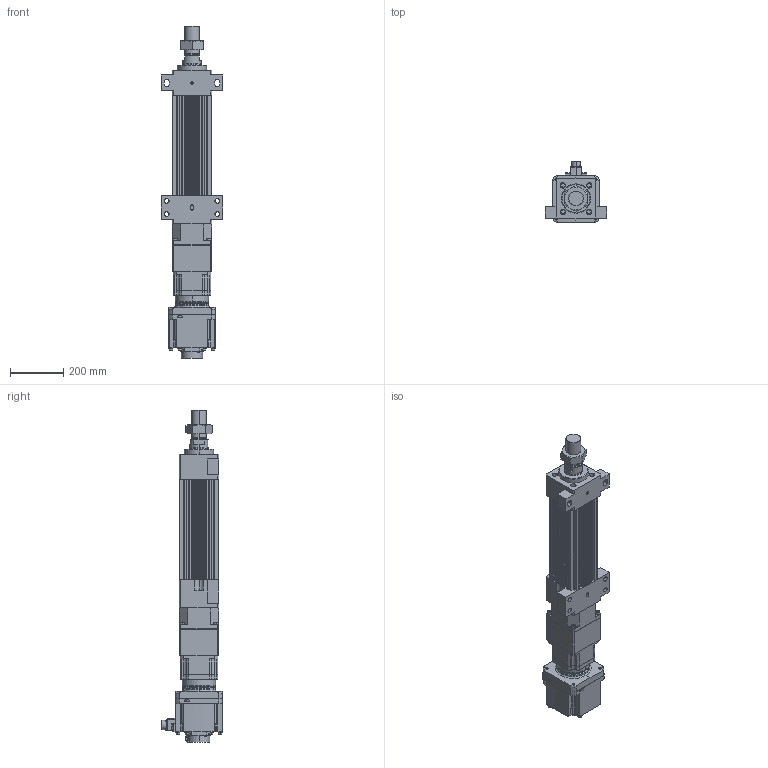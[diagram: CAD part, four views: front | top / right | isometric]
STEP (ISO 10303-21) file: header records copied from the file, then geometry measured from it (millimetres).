
FILE_DESCRIPTION (( 'STEP AP203' ), '1' );
FILE_NAME ('HES150NS(HS)-S100-W035G00-M-FFB.STEP', '2023-01-31T12:26:20', ( 'tms' ), ( '' ), 'SwSTEP 2.0', 'SolidWorks 2013', '' );
FILE_SCHEMA (( 'CONFIG_CONTROL_DESIGN' ));
Length unit declared in the file: millimetre
Products named in the file (9): AB1421; P0403500801; HES150 ROD M ST100; M56X2.0P; AB142-003[HG-SR352]; P1301500001; HES150-S100-G142-FFB; HES150NS(HS)-S100-W035G00-M-FFB; HG-SR352
Assembly tree (8 placements, depth 3):
  HES150NS(HS)-S100-W035G00-M-FFB
    HES150-S100-G142-FFB
    HES150 ROD M ST100
    M56X2.0P
    AB142-003[HG-SR352]
      AB1421
      P1301500001
      P0403500801
    HG-SR352
Bounding box: 230 x 228.85 x 1247.5 mm (x, y, z)
Volume: 14442864.3 mm3; surface area: 1500767.7 mm2
Topology: 5 solids, 23 shells, 1522 faces, 3951 edges, 2569 vertices
Faces by surface type: cylinder 691, plane 599, cone 150, bspline 76, torus 6
Entity records: 55583 total; most frequent: CARTESIAN_POINT 16843, DIRECTION 8091, ORIENTED_EDGE 7808, EDGE_CURVE 3926, AXIS2_PLACEMENT_3D 3042, VERTEX_POINT 2569, VECTOR 2007, LINE 2007
